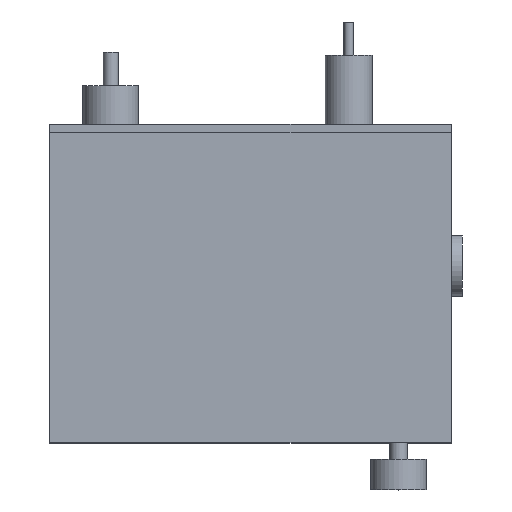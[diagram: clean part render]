
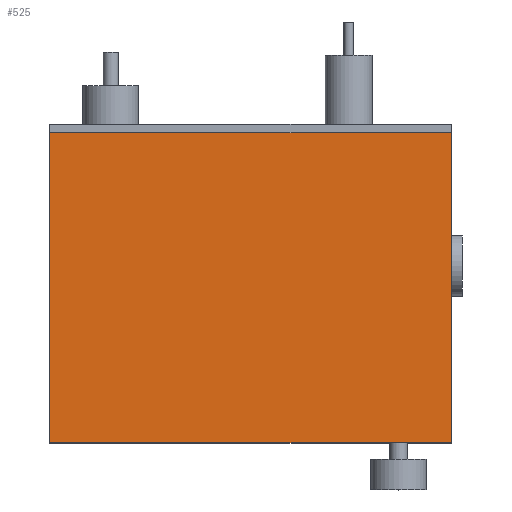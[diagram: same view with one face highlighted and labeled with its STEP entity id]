
A CAD part, top view. The second image highlights one B-rep face of the part: STEP entity #525.
In plain terms, the highlighted planar face has unit normal (0, 0, 1).
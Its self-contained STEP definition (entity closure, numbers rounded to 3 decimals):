
#93 = VERTEX_POINT('',#94);
#94 = CARTESIAN_POINT('',(0.,0.,100.));
#101 = PLANE('',#102);
#102 = AXIS2_PLACEMENT_3D('',#103,#104,#105);
#103 = CARTESIAN_POINT('',(0.,0.,0.));
#104 = DIRECTION('',(1.,0.,0.));
#105 = DIRECTION('',(0.,0.,1.));
#113 = PLANE('',#114);
#114 = AXIS2_PLACEMENT_3D('',#115,#116,#117);
#115 = CARTESIAN_POINT('',(0.,0.,0.));
#116 = DIRECTION('',(0.,1.,0.));
#117 = DIRECTION('',(0.,0.,1.));
#154 = VERTEX_POINT('',#155);
#155 = CARTESIAN_POINT('',(0.,112.,100.));
#169 = PLANE('',#170);
#170 = AXIS2_PLACEMENT_3D('',#171,#172,#173);
#171 = CARTESIAN_POINT('',(0.,112.,0.));
#172 = DIRECTION('',(0.,1.,0.));
#173 = DIRECTION('',(0.,0.,1.));
#181 = EDGE_CURVE('',#93,#154,#182,.T.);
#182 = SURFACE_CURVE('',#183,(#187,#194),.PCURVE_S1.);
#183 = LINE('',#184,#185);
#184 = CARTESIAN_POINT('',(0.,0.,100.));
#185 = VECTOR('',#186,1.);
#186 = DIRECTION('',(0.,1.,0.));
#187 = PCURVE('',#101,#188);
#188 = DEFINITIONAL_REPRESENTATION('',(#189),#193);
#189 = LINE('',#190,#191);
#190 = CARTESIAN_POINT('',(100.,0.));
#191 = VECTOR('',#192,1.);
#192 = DIRECTION('',(0.,-1.));
#193 = ( GEOMETRIC_REPRESENTATION_CONTEXT(2) 
PARAMETRIC_REPRESENTATION_CONTEXT() REPRESENTATION_CONTEXT('2D SPACE',''
  ) );
#194 = PCURVE('',#195,#200);
#195 = PLANE('',#196);
#196 = AXIS2_PLACEMENT_3D('',#197,#198,#199);
#197 = CARTESIAN_POINT('',(0.,0.,100.));
#198 = DIRECTION('',(0.,0.,1.));
#199 = DIRECTION('',(1.,0.,0.));
#200 = DEFINITIONAL_REPRESENTATION('',(#201),#205);
#201 = LINE('',#202,#203);
#202 = CARTESIAN_POINT('',(0.,0.));
#203 = VECTOR('',#204,1.);
#204 = DIRECTION('',(0.,1.));
#205 = ( GEOMETRIC_REPRESENTATION_CONTEXT(2) 
PARAMETRIC_REPRESENTATION_CONTEXT() REPRESENTATION_CONTEXT('2D SPACE',''
  ) );
#340 = EDGE_CURVE('',#93,#341,#343,.T.);
#341 = VERTEX_POINT('',#342);
#342 = CARTESIAN_POINT('',(145.,0.,100.));
#343 = SURFACE_CURVE('',#344,(#348,#355),.PCURVE_S1.);
#344 = LINE('',#345,#346);
#345 = CARTESIAN_POINT('',(0.,0.,100.));
#346 = VECTOR('',#347,1.);
#347 = DIRECTION('',(1.,0.,0.));
#348 = PCURVE('',#113,#349);
#349 = DEFINITIONAL_REPRESENTATION('',(#350),#354);
#350 = LINE('',#351,#352);
#351 = CARTESIAN_POINT('',(100.,0.));
#352 = VECTOR('',#353,1.);
#353 = DIRECTION('',(0.,1.));
#354 = ( GEOMETRIC_REPRESENTATION_CONTEXT(2) 
PARAMETRIC_REPRESENTATION_CONTEXT() REPRESENTATION_CONTEXT('2D SPACE',''
  ) );
#355 = PCURVE('',#195,#356);
#356 = DEFINITIONAL_REPRESENTATION('',(#357),#361);
#357 = LINE('',#358,#359);
#358 = CARTESIAN_POINT('',(0.,0.));
#359 = VECTOR('',#360,1.);
#360 = DIRECTION('',(1.,0.));
#361 = ( GEOMETRIC_REPRESENTATION_CONTEXT(2) 
PARAMETRIC_REPRESENTATION_CONTEXT() REPRESENTATION_CONTEXT('2D SPACE',''
  ) );
#377 = PLANE('',#378);
#378 = AXIS2_PLACEMENT_3D('',#379,#380,#381);
#379 = CARTESIAN_POINT('',(145.,0.,0.));
#380 = DIRECTION('',(1.,0.,0.));
#381 = DIRECTION('',(0.,0.,1.));
#525 = ADVANCED_FACE('',(#526),#195,.T.);
#526 = FACE_BOUND('',#527,.T.);
#527 = EDGE_LOOP('',(#528,#529,#530,#553));
#528 = ORIENTED_EDGE('',*,*,#181,.F.);
#529 = ORIENTED_EDGE('',*,*,#340,.T.);
#530 = ORIENTED_EDGE('',*,*,#531,.T.);
#531 = EDGE_CURVE('',#341,#532,#534,.T.);
#532 = VERTEX_POINT('',#533);
#533 = CARTESIAN_POINT('',(145.,112.,100.));
#534 = SURFACE_CURVE('',#535,(#539,#546),.PCURVE_S1.);
#535 = LINE('',#536,#537);
#536 = CARTESIAN_POINT('',(145.,0.,100.));
#537 = VECTOR('',#538,1.);
#538 = DIRECTION('',(0.,1.,0.));
#539 = PCURVE('',#195,#540);
#540 = DEFINITIONAL_REPRESENTATION('',(#541),#545);
#541 = LINE('',#542,#543);
#542 = CARTESIAN_POINT('',(145.,0.));
#543 = VECTOR('',#544,1.);
#544 = DIRECTION('',(0.,1.));
#545 = ( GEOMETRIC_REPRESENTATION_CONTEXT(2) 
PARAMETRIC_REPRESENTATION_CONTEXT() REPRESENTATION_CONTEXT('2D SPACE',''
  ) );
#546 = PCURVE('',#377,#547);
#547 = DEFINITIONAL_REPRESENTATION('',(#548),#552);
#548 = LINE('',#549,#550);
#549 = CARTESIAN_POINT('',(100.,0.));
#550 = VECTOR('',#551,1.);
#551 = DIRECTION('',(0.,-1.));
#552 = ( GEOMETRIC_REPRESENTATION_CONTEXT(2) 
PARAMETRIC_REPRESENTATION_CONTEXT() REPRESENTATION_CONTEXT('2D SPACE',''
  ) );
#553 = ORIENTED_EDGE('',*,*,#554,.F.);
#554 = EDGE_CURVE('',#154,#532,#555,.T.);
#555 = SURFACE_CURVE('',#556,(#560,#567),.PCURVE_S1.);
#556 = LINE('',#557,#558);
#557 = CARTESIAN_POINT('',(0.,112.,100.));
#558 = VECTOR('',#559,1.);
#559 = DIRECTION('',(1.,0.,0.));
#560 = PCURVE('',#195,#561);
#561 = DEFINITIONAL_REPRESENTATION('',(#562),#566);
#562 = LINE('',#563,#564);
#563 = CARTESIAN_POINT('',(0.,112.));
#564 = VECTOR('',#565,1.);
#565 = DIRECTION('',(1.,0.));
#566 = ( GEOMETRIC_REPRESENTATION_CONTEXT(2) 
PARAMETRIC_REPRESENTATION_CONTEXT() REPRESENTATION_CONTEXT('2D SPACE',''
  ) );
#567 = PCURVE('',#169,#568);
#568 = DEFINITIONAL_REPRESENTATION('',(#569),#573);
#569 = LINE('',#570,#571);
#570 = CARTESIAN_POINT('',(100.,0.));
#571 = VECTOR('',#572,1.);
#572 = DIRECTION('',(0.,1.));
#573 = ( GEOMETRIC_REPRESENTATION_CONTEXT(2) 
PARAMETRIC_REPRESENTATION_CONTEXT() REPRESENTATION_CONTEXT('2D SPACE',''
  ) );
